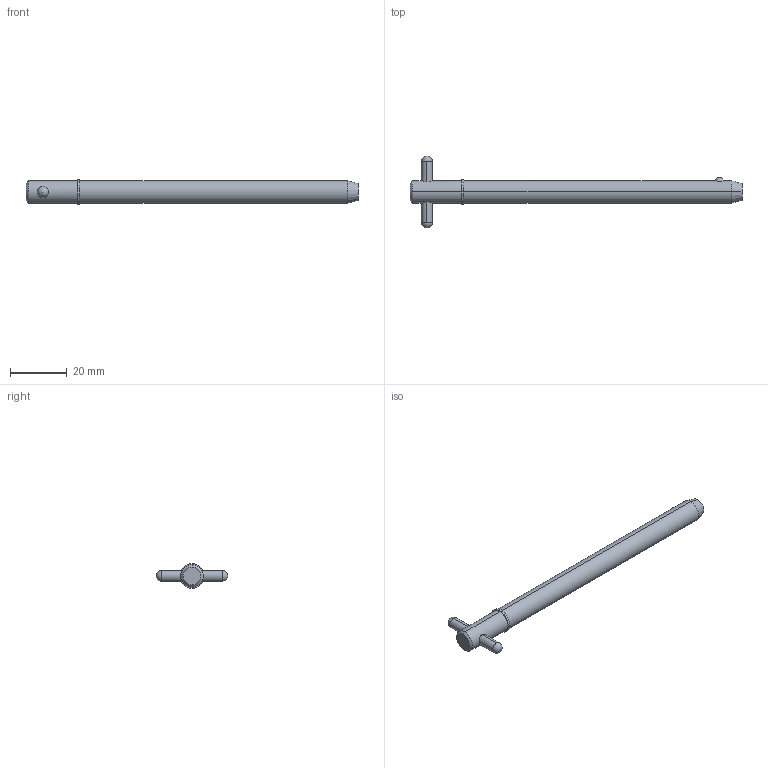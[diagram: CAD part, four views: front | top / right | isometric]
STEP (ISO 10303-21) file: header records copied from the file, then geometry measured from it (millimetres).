
FILE_DESCRIPTION (( 'STEP AP203' ), '1' );
FILE_NAME ('33018.W3135.step', '2024-11-19T17:09:56', ( '' ), ( '' ), 'SwSTEP 2.0', 'SolidWorks 2019', '' );
FILE_SCHEMA (( 'CONFIG_CONTROL_DESIGN' ));
Length unit declared in the file: millimetre
Products named in the file (3): Part2_33018.W3135; Part1_33018.W3135; 33018.W3135
Assembly tree (2 placements, depth 2):
  33018.W3135
    Part1_33018.W3135
    Part2_33018.W3135
Bounding box: 117.48 x 25.4 x 8.73 mm (x, y, z)
Volume: 5983.1 mm3; surface area: 3397.5 mm2
Topology: 2 solids, 2 shells, 22 faces, 47 edges, 30 vertices
Faces by surface type: cylinder 10, sphere 4, cone 4, plane 4
Entity records: 1013 total; most frequent: CARTESIAN_POINT 256, DIRECTION 110, ORIENTED_EDGE 82, AXIS2_PLACEMENT_3D 48, EDGE_CURVE 41, EDGE_LOOP 27, VERTEX_POINT 26, PERSON_AND_ORGANIZATION 26
